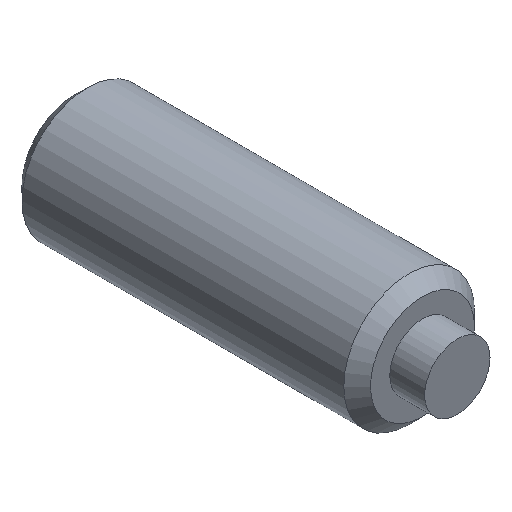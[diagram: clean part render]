
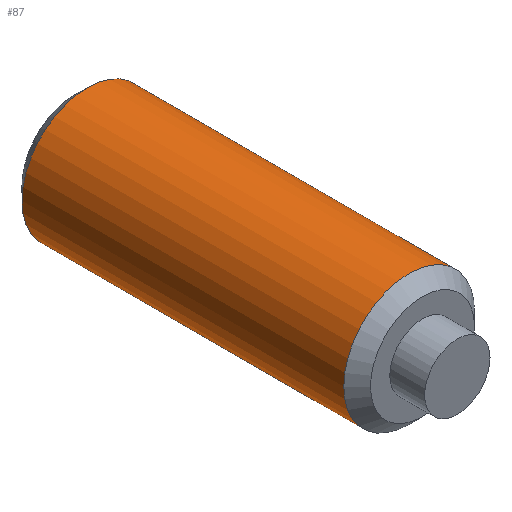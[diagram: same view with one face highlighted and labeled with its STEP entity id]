
A CAD part, isometric view. The second image highlights one B-rep face of the part: STEP entity #87.
In plain terms, the highlighted cylindrical face has radius 1.5 mm (diameter 3 mm), a full revolution.
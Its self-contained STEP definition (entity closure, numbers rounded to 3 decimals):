
#87 = ADVANCED_FACE( '', ( #118, #119 ), #120, .T. );
#118 = FACE_OUTER_BOUND( '', #152, .T. );
#119 = FACE_OUTER_BOUND( '', #153, .T. );
#120 = CYLINDRICAL_SURFACE( '', #154, 1.5 );
#152 = EDGE_LOOP( '', ( #238 ) );
#153 = EDGE_LOOP( '', ( #239 ) );
#154 = AXIS2_PLACEMENT_3D( '', #240, #241, #242 );
#238 = ORIENTED_EDGE( '', *, *, #270, .F. );
#239 = ORIENTED_EDGE( '', *, *, #271, .T. );
#240 = CARTESIAN_POINT( '', ( 0., 0., 0. ) );
#241 = DIRECTION( '', ( 0., 1., 0. ) );
#242 = DIRECTION( '', ( 0., 0., -1. ) );
#270 = EDGE_CURVE( '', #310, #310, #311, .T. );
#271 = EDGE_CURVE( '', #312, #312, #313, .T. );
#310 = VERTEX_POINT( '', #370 );
#311 = CIRCLE( '', #371, 1.5 );
#312 = VERTEX_POINT( '', #372 );
#313 = CIRCLE( '', #373, 1.5 );
#370 = CARTESIAN_POINT( '', ( 0., 1.107, -1.5 ) );
#371 = AXIS2_PLACEMENT_3D( '', #404, #405, #406 );
#372 = CARTESIAN_POINT( '', ( 0., 8.494, -1.5 ) );
#373 = AXIS2_PLACEMENT_3D( '', #407, #408, #409 );
#404 = CARTESIAN_POINT( '', ( 0., 1.107, 0. ) );
#405 = DIRECTION( '', ( 0., -1., 0. ) );
#406 = DIRECTION( '', ( 0., 0., -1. ) );
#407 = CARTESIAN_POINT( '', ( 0., 8.494, 0. ) );
#408 = DIRECTION( '', ( 0., -1., 0. ) );
#409 = DIRECTION( '', ( 0., 0., -1. ) );
